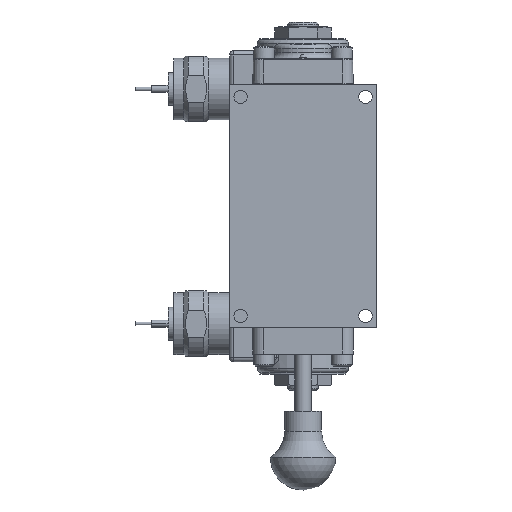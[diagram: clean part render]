
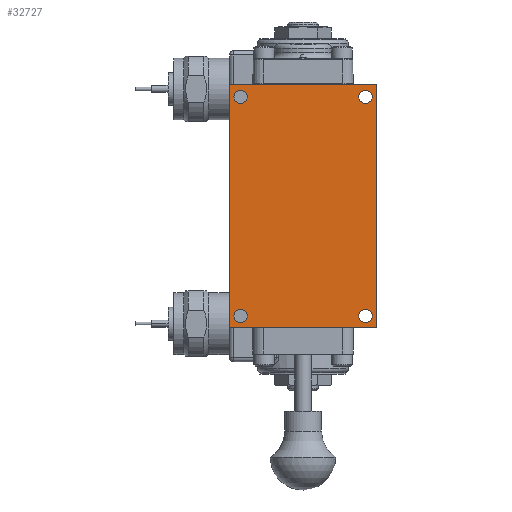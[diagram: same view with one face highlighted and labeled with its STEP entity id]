
A CAD part, front view. The second image highlights one B-rep face of the part: STEP entity #32727.
In plain terms, the highlighted planar face has unit normal (0, -1, 0).
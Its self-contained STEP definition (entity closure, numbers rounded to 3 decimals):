
#1094=FACE_BOUND('',#9310,.T.);
#1095=FACE_BOUND('',#9311,.T.);
#1096=FACE_BOUND('',#9312,.T.);
#1097=FACE_BOUND('',#9313,.T.);
#2193=LINE('',#51745,#4460);
#2214=LINE('',#51805,#4481);
#2426=LINE('',#52832,#4693);
#2668=LINE('',#54256,#4935);
#4460=VECTOR('',#39336,1.);
#4481=VECTOR('',#39403,1.);
#4693=VECTOR('',#39793,1.);
#4935=VECTOR('',#40189,1.);
#7346=FACE_OUTER_BOUND('',#9309,.T.);
#9309=EDGE_LOOP('',(#23861,#23862,#23863,#23864));
#9310=EDGE_LOOP('',(#23865));
#9311=EDGE_LOOP('',(#23866));
#9312=EDGE_LOOP('',(#23867));
#9313=EDGE_LOOP('',(#23868));
#11193=CIRCLE('',#35064,0.258);
#11194=CIRCLE('',#35066,0.258);
#11195=CIRCLE('',#35068,0.258);
#11196=CIRCLE('',#35070,0.258);
#13033=VERTEX_POINT('',#51742);
#13034=VERTEX_POINT('',#51744);
#13049=VERTEX_POINT('',#51802);
#13050=VERTEX_POINT('',#51804);
#13600=VERTEX_POINT('',#55204);
#13601=VERTEX_POINT('',#55208);
#13602=VERTEX_POINT('',#55212);
#13603=VERTEX_POINT('',#55216);
#16462=EDGE_CURVE('',#13033,#13034,#2193,.T.);
#16492=EDGE_CURVE('',#13049,#13050,#2214,.T.);
#16772=EDGE_CURVE('',#13034,#13049,#2426,.T.);
#17110=EDGE_CURVE('',#13050,#13033,#2668,.T.);
#17316=EDGE_CURVE('',#13600,#13600,#11193,.T.);
#17318=EDGE_CURVE('',#13601,#13601,#11194,.T.);
#17320=EDGE_CURVE('',#13602,#13602,#11195,.T.);
#17322=EDGE_CURVE('',#13603,#13603,#11196,.T.);
#23861=ORIENTED_EDGE('',*,*,#16772,.F.);
#23862=ORIENTED_EDGE('',*,*,#16462,.F.);
#23863=ORIENTED_EDGE('',*,*,#17110,.F.);
#23864=ORIENTED_EDGE('',*,*,#16492,.F.);
#23865=ORIENTED_EDGE('',*,*,#17316,.T.);
#23866=ORIENTED_EDGE('',*,*,#17318,.T.);
#23867=ORIENTED_EDGE('',*,*,#17320,.T.);
#23868=ORIENTED_EDGE('',*,*,#17322,.T.);
#30022=PLANE('',#35106);
#32727=ADVANCED_FACE('',(#7346,#1094,#1095,#1096,#1097),#30022,.F.);
#35064=AXIS2_PLACEMENT_3D('',#55206,#40612,#40613);
#35066=AXIS2_PLACEMENT_3D('',#55210,#40617,#40618);
#35068=AXIS2_PLACEMENT_3D('',#55214,#40622,#40623);
#35070=AXIS2_PLACEMENT_3D('',#55218,#40627,#40628);
#35106=AXIS2_PLACEMENT_3D('',#55289,#40714,#40715);
#39336=DIRECTION('',(-1.,0.,0.));
#39403=DIRECTION('',(1.,0.,0.));
#39793=DIRECTION('',(0.,0.,1.));
#40189=DIRECTION('',(0.,0.,-1.));
#40612=DIRECTION('center_axis',(0.,1.,0.));
#40613=DIRECTION('ref_axis',(-1.,0.,0.));
#40617=DIRECTION('center_axis',(0.,1.,0.));
#40618=DIRECTION('ref_axis',(-1.,0.,0.));
#40622=DIRECTION('center_axis',(0.,1.,0.));
#40623=DIRECTION('ref_axis',(-1.,0.,0.));
#40627=DIRECTION('center_axis',(0.,1.,0.));
#40628=DIRECTION('ref_axis',(-1.,0.,0.));
#40714=DIRECTION('center_axis',(0.,1.,0.));
#40715=DIRECTION('ref_axis',(0.,0.,1.));
#51742=CARTESIAN_POINT('',(2.858,-1.636,-4.71));
#51744=CARTESIAN_POINT('',(-2.858,-1.636,-4.71));
#51745=CARTESIAN_POINT('',(2.858,-1.636,-4.71));
#51802=CARTESIAN_POINT('',(-2.858,-1.636,4.71));
#51804=CARTESIAN_POINT('',(2.858,-1.636,4.71));
#51805=CARTESIAN_POINT('',(-2.858,-1.636,4.71));
#52832=CARTESIAN_POINT('',(-2.858,-1.636,-4.71));
#54256=CARTESIAN_POINT('',(2.858,-1.636,4.71));
#55204=CARTESIAN_POINT('',(-2.163,-1.636,-4.247));
#55206=CARTESIAN_POINT('Origin',(-2.421,-1.636,-4.247));
#55208=CARTESIAN_POINT('',(-2.163,-1.636,4.247));
#55210=CARTESIAN_POINT('Origin',(-2.421,-1.636,4.247));
#55212=CARTESIAN_POINT('',(2.678,-1.636,-4.247));
#55214=CARTESIAN_POINT('Origin',(2.421,-1.636,-4.247));
#55216=CARTESIAN_POINT('',(2.678,-1.636,4.247));
#55218=CARTESIAN_POINT('Origin',(2.421,-1.636,4.247));
#55289=CARTESIAN_POINT('Origin',(0.,-1.636,0.));
